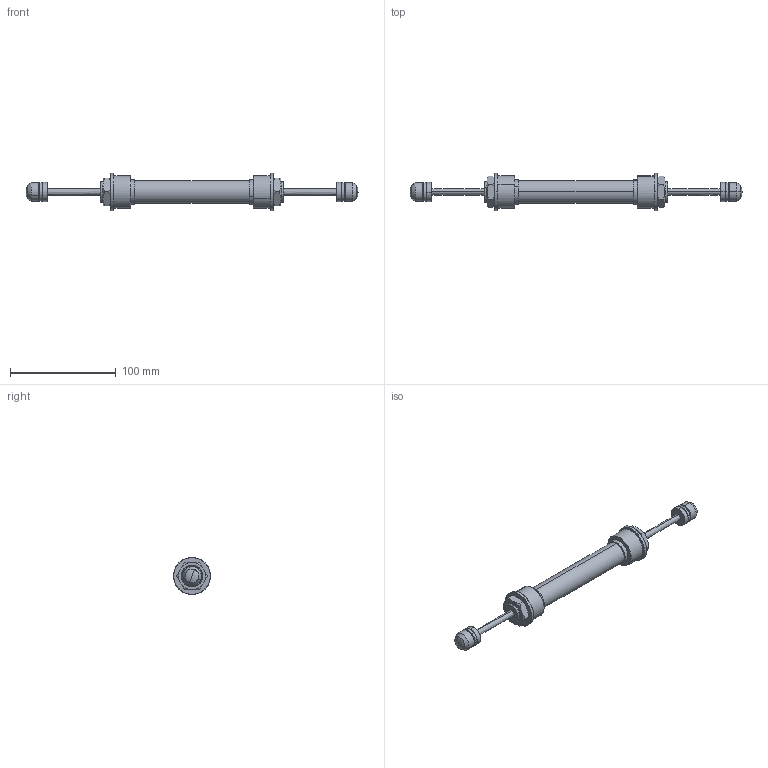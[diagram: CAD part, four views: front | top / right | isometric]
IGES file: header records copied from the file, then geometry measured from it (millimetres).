
Start section: SolidWorks IGES file using analytic representation for surfaces
Global section: file name: D:\IGS跡宒\ACD2050-WY-D.IGS,1; native system: 5HSolidWorks 2013; preprocessor: SolidWorks 2013; author: Administrator; date: 160406.152621; units: inch
Bounding box: 313.4 x 35 x 35 mm (x, y, z)
Surface area: 26621.3 mm2 (no closed solid volume)
Topology: 0 solids, 0 shells, 130 faces, 2380 edges, 2378 vertices
Faces by surface type: revolution 94, bspline 36
